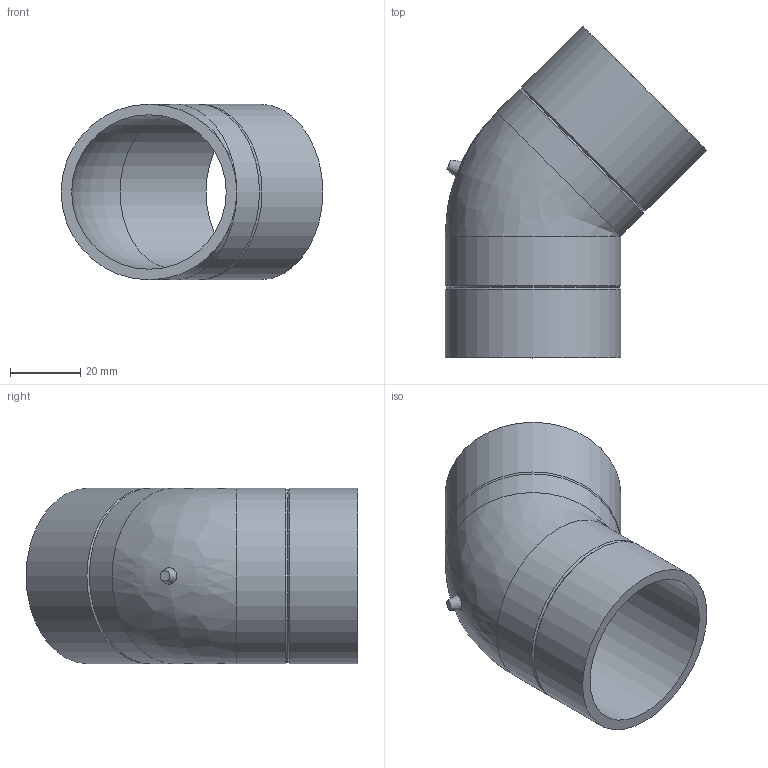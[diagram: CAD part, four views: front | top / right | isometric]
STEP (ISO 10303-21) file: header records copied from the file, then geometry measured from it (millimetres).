
FILE_DESCRIPTION(/* description */ (''),/* implementation_level */ '2;1');
FILE_NAME(/* name */ 'Z:\Geberit\Export\NewStep\PE Bogen Einzelteil_Ipart\stp\361045.stp',/* time_stamp */ '2014-04-02T11:56:15+02:00',/* author */ ('bruh'),/* organization */ (''),/* preprocessor_version */ 'ST-DEVELOPER v15.2',/* originating_system */ 'Autodesk Inventor 2014',/* authorisation */ '');
FILE_SCHEMA (('AUTOMOTIVE_DESIGN { 1 0 10303 214 3 1 1 }'));
Length unit declared in the file: millimetre
Products named in the file (1): 361045
Bounding box: 74.5 x 94.5 x 50 mm (x, y, z)
Volume: 39418.8 mm3; surface area: 27308.1 mm2
Topology: 1 solids, 1 shells, 16 faces, 32 edges, 17 vertices
Faces by surface type: cylinder 6, cone 5, plane 3, torus 1, bspline 1
Full cylindrical faces by diameter (mm): 44 x2, 50 x4
Entity records: 475 total; most frequent: CARTESIAN_POINT 169, DIRECTION 62, ORIENTED_EDGE 32, EDGE_LOOP 31, AXIS2_PLACEMENT_3D 31, FACE_BOUND 18, STYLED_ITEM 17, EDGE_CURVE 16
